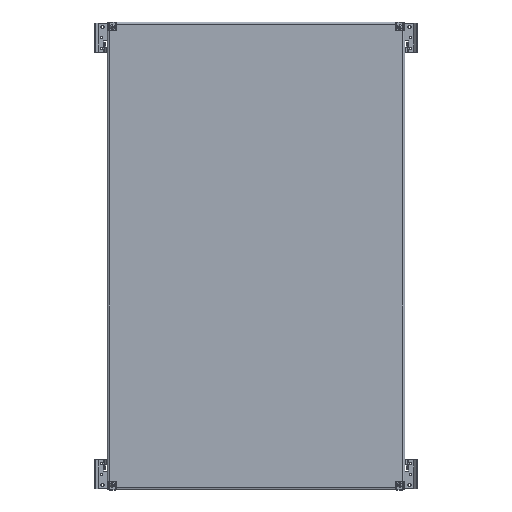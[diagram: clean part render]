
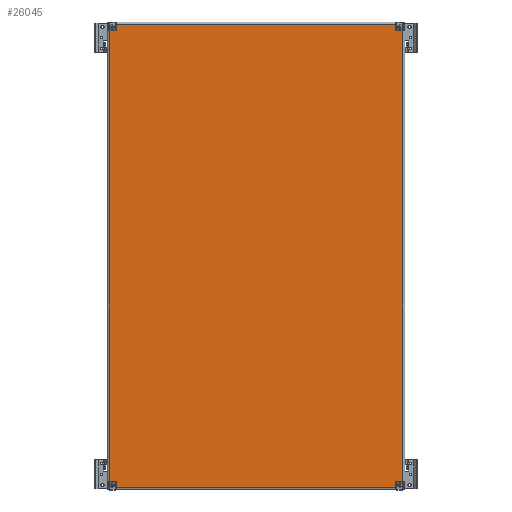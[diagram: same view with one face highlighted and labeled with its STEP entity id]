
A CAD part, top view. The second image highlights one B-rep face of the part: STEP entity #26045.
In plain terms, the highlighted planar face has unit normal (0, 0, 1).
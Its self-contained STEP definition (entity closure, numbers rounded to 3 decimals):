
#873 = DIRECTION ( 'NONE',  ( 0., 1., 0. ) ) ;
#1228 = CARTESIAN_POINT ( 'NONE',  ( 328.5, 529.5, 0. ) ) ;
#1687 = VECTOR ( 'NONE', #28397, 1000. ) ;
#1767 = CARTESIAN_POINT ( 'NONE',  ( 329.5, -529.5, 0. ) ) ;
#2126 = EDGE_CURVE ( 'NONE', #26656, #28399, #14242, .T. ) ;
#2667 = FACE_OUTER_BOUND ( 'NONE', #18106, .T. ) ;
#2887 = VERTEX_POINT ( 'NONE', #34627 ) ;
#3249 = CARTESIAN_POINT ( 'NONE',  ( 344.5, -528.5, 0. ) ) ;
#3289 = ORIENTED_EDGE ( 'NONE', *, *, #14723, .F. ) ;
#3329 = VECTOR ( 'NONE', #20695, 1000. ) ;
#3623 = DIRECTION ( 'NONE',  ( 0., -1., 0. ) ) ;
#3656 = EDGE_CURVE ( 'NONE', #22456, #15865, #10225, .T. ) ;
#3991 = VECTOR ( 'NONE', #29904, 1000. ) ;
#3996 = LINE ( 'NONE', #7101, #35418 ) ;
#4034 = CARTESIAN_POINT ( 'NONE',  ( 328.5, -544.5, 0. ) ) ;
#4204 = VECTOR ( 'NONE', #3623, 1000. ) ;
#4417 = VECTOR ( 'NONE', #17963, 1000. ) ;
#4607 = CARTESIAN_POINT ( 'NONE',  ( -349.5, -528.5, 0. ) ) ;
#4974 = DIRECTION ( 'NONE',  ( -1., 0., 0. ) ) ;
#5222 = VECTOR ( 'NONE', #10550, 1000. ) ;
#5445 = VECTOR ( 'NONE', #18452, 1000. ) ;
#6223 = VERTEX_POINT ( 'NONE', #34834 ) ;
#6852 = CARTESIAN_POINT ( 'NONE',  ( -328.5, 544.5, 0. ) ) ;
#7101 = CARTESIAN_POINT ( 'NONE',  ( -328.5, 549.5, 0. ) ) ;
#7339 = DIRECTION ( 'NONE',  ( 0., 0., 1. ) ) ;
#7634 = DIRECTION ( 'NONE',  ( 0., 0., -1. ) ) ;
#7762 = AXIS2_PLACEMENT_3D ( 'NONE', #19757, #7339, #35046 ) ;
#7945 = ORIENTED_EDGE ( 'NONE', *, *, #25938, .F. ) ;
#8225 = LINE ( 'NONE', #14818, #12094 ) ;
#8340 = CARTESIAN_POINT ( 'NONE',  ( -349.5, 528.5, 0. ) ) ;
#8444 = LINE ( 'NONE', #14837, #3991 ) ;
#9569 = CIRCLE ( 'NONE', #9600, 1. ) ;
#9600 = AXIS2_PLACEMENT_3D ( 'NONE', #1767, #33594, #23876 ) ;
#10225 = LINE ( 'NONE', #3249, #1687 ) ;
#10539 = ORIENTED_EDGE ( 'NONE', *, *, #27429, .F. ) ;
#10550 = DIRECTION ( 'NONE',  ( -1., 0., 0. ) ) ;
#10865 = ORIENTED_EDGE ( 'NONE', *, *, #36867, .F. ) ;
#11157 = LINE ( 'NONE', #4607, #5222 ) ;
#11674 = VECTOR ( 'NONE', #4974, 1000. ) ;
#12094 = VECTOR ( 'NONE', #24753, 1000. ) ;
#12475 = ORIENTED_EDGE ( 'NONE', *, *, #3656, .T. ) ;
#12758 = CARTESIAN_POINT ( 'NONE',  ( 344.5, -528.5, 0. ) ) ;
#13300 = CARTESIAN_POINT ( 'NONE',  ( 328.5, 544.5, 0. ) ) ;
#14061 = CARTESIAN_POINT ( 'NONE',  ( -329.5, -529.5, 0. ) ) ;
#14242 = LINE ( 'NONE', #26825, #23196 ) ;
#14440 = LINE ( 'NONE', #33675, #4417 ) ;
#14723 = EDGE_CURVE ( 'NONE', #26656, #28868, #27248, .T. ) ;
#14818 = CARTESIAN_POINT ( 'NONE',  ( 349.5, 528.5, 0. ) ) ;
#14837 = CARTESIAN_POINT ( 'NONE',  ( -344.5, 528.5, 0. ) ) ;
#14968 = EDGE_CURVE ( 'NONE', #26399, #17802, #8444, .T. ) ;
#15865 = VERTEX_POINT ( 'NONE', #29173 ) ;
#16400 = CARTESIAN_POINT ( 'NONE',  ( -329.5, 528.5, 0. ) ) ;
#16609 = DIRECTION ( 'NONE',  ( -1., 0., 0. ) ) ;
#16618 = CARTESIAN_POINT ( 'NONE',  ( 328.5, 544.5, 0. ) ) ;
#16634 = CARTESIAN_POINT ( 'NONE',  ( -328.5, 529.5, 0. ) ) ;
#16727 = EDGE_CURVE ( 'NONE', #38385, #38629, #22497, .T. ) ;
#16806 = CARTESIAN_POINT ( 'NONE',  ( -328.5, -544.5, 0. ) ) ;
#17370 = AXIS2_PLACEMENT_3D ( 'NONE', #14061, #38841, #29155 ) ;
#17802 = VERTEX_POINT ( 'NONE', #19268 ) ;
#17963 = DIRECTION ( 'NONE',  ( 0., -1., 0. ) ) ;
#18106 = EDGE_LOOP ( 'NONE', ( #3289, #39124, #35439, #21185, #7945, #12475, #10865, #36861, #30970, #38395, #23134, #34205, #25080, #40346, #10539, #25195 ) ) ;
#18452 = DIRECTION ( 'NONE',  ( 1., 0., 0. ) ) ;
#19119 = LINE ( 'NONE', #13300, #25442 ) ;
#19268 = CARTESIAN_POINT ( 'NONE',  ( -344.5, -528.5, 0. ) ) ;
#19437 = DIRECTION ( 'NONE',  ( 1., 0., 0. ) ) ;
#19757 = CARTESIAN_POINT ( 'NONE',  ( 0., 0., 0. ) ) ;
#19839 = CARTESIAN_POINT ( 'NONE',  ( -344.5, 528.5, 0. ) ) ;
#20248 = CARTESIAN_POINT ( 'NONE',  ( 329.5, 529.5, 0. ) ) ;
#20664 = LINE ( 'NONE', #35943, #11674 ) ;
#20695 = DIRECTION ( 'NONE',  ( 0., 1., 0. ) ) ;
#21073 = PLANE ( 'NONE',  #7762 ) ;
#21185 = ORIENTED_EDGE ( 'NONE', *, *, #38400, .T. ) ;
#21991 = EDGE_CURVE ( 'NONE', #33281, #35777, #19119, .T. ) ;
#22298 = EDGE_CURVE ( 'NONE', #33281, #32684, #14440, .T. ) ;
#22456 = VERTEX_POINT ( 'NONE', #12758 ) ;
#22497 = CIRCLE ( 'NONE', #27715, 1. ) ;
#23132 = EDGE_CURVE ( 'NONE', #2887, #28399, #35601, .T. ) ;
#23134 = ORIENTED_EDGE ( 'NONE', *, *, #26274, .F. ) ;
#23144 = DIRECTION ( 'NONE',  ( 1., 0., 0. ) ) ;
#23196 = VECTOR ( 'NONE', #23144, 1000. ) ;
#23555 = CIRCLE ( 'NONE', #25561, 1. ) ;
#23876 = DIRECTION ( 'NONE',  ( 1., 0., 0. ) ) ;
#24455 = LINE ( 'NONE', #8340, #5445 ) ;
#24753 = DIRECTION ( 'NONE',  ( 1., 0., 0. ) ) ;
#25080 = ORIENTED_EDGE ( 'NONE', *, *, #31584, .F. ) ;
#25195 = ORIENTED_EDGE ( 'NONE', *, *, #32339, .T. ) ;
#25442 = VECTOR ( 'NONE', #16609, 1000. ) ;
#25561 = AXIS2_PLACEMENT_3D ( 'NONE', #20248, #7634, #19437 ) ;
#25938 = EDGE_CURVE ( 'NONE', #22456, #6223, #20664, .T. ) ;
#26045 = ADVANCED_FACE ( 'NONE', ( #2667 ), #21073, .T. ) ;
#26274 = EDGE_CURVE ( 'NONE', #38385, #35777, #3996, .T. ) ;
#26399 = VERTEX_POINT ( 'NONE', #19839 ) ;
#26490 = EDGE_CURVE ( 'NONE', #34379, #32684, #23555, .T. ) ;
#26656 = VERTEX_POINT ( 'NONE', #16806 ) ;
#26825 = CARTESIAN_POINT ( 'NONE',  ( -328.5, -544.5, 0. ) ) ;
#27248 = LINE ( 'NONE', #33507, #3329 ) ;
#27429 = EDGE_CURVE ( 'NONE', #31846, #17802, #11157, .T. ) ;
#27715 = AXIS2_PLACEMENT_3D ( 'NONE', #38263, #31884, #32288 ) ;
#28397 = DIRECTION ( 'NONE',  ( 0., 1., 0. ) ) ;
#28399 = VERTEX_POINT ( 'NONE', #4034 ) ;
#28868 = VERTEX_POINT ( 'NONE', #40851 ) ;
#29155 = DIRECTION ( 'NONE',  ( 1., 0., 0. ) ) ;
#29173 = CARTESIAN_POINT ( 'NONE',  ( 344.5, 528.5, 0. ) ) ;
#29904 = DIRECTION ( 'NONE',  ( 0., -1., 0. ) ) ;
#30970 = ORIENTED_EDGE ( 'NONE', *, *, #22298, .F. ) ;
#31584 = EDGE_CURVE ( 'NONE', #26399, #38629, #24455, .T. ) ;
#31846 = VERTEX_POINT ( 'NONE', #35113 ) ;
#31884 = DIRECTION ( 'NONE',  ( 0., 0., -1. ) ) ;
#32288 = DIRECTION ( 'NONE',  ( 1., 0., 0. ) ) ;
#32339 = EDGE_CURVE ( 'NONE', #31846, #28868, #37799, .T. ) ;
#32684 = VERTEX_POINT ( 'NONE', #1228 ) ;
#33281 = VERTEX_POINT ( 'NONE', #16618 ) ;
#33507 = CARTESIAN_POINT ( 'NONE',  ( -328.5, -549.5, 0. ) ) ;
#33594 = DIRECTION ( 'NONE',  ( 0., 0., -1. ) ) ;
#33675 = CARTESIAN_POINT ( 'NONE',  ( 328.5, 549.5, 0. ) ) ;
#34205 = ORIENTED_EDGE ( 'NONE', *, *, #16727, .T. ) ;
#34379 = VERTEX_POINT ( 'NONE', #38441 ) ;
#34627 = CARTESIAN_POINT ( 'NONE',  ( 328.5, -529.5, 0. ) ) ;
#34834 = CARTESIAN_POINT ( 'NONE',  ( 329.5, -528.5, 0. ) ) ;
#35046 = DIRECTION ( 'NONE',  ( 1., 0., 0. ) ) ;
#35113 = CARTESIAN_POINT ( 'NONE',  ( -329.5, -528.5, 0. ) ) ;
#35418 = VECTOR ( 'NONE', #873, 1000. ) ;
#35439 = ORIENTED_EDGE ( 'NONE', *, *, #23132, .F. ) ;
#35601 = LINE ( 'NONE', #35806, #4204 ) ;
#35777 = VERTEX_POINT ( 'NONE', #6852 ) ;
#35806 = CARTESIAN_POINT ( 'NONE',  ( 328.5, -549.5, 0. ) ) ;
#35943 = CARTESIAN_POINT ( 'NONE',  ( 349.5, -528.5, 0. ) ) ;
#36861 = ORIENTED_EDGE ( 'NONE', *, *, #26490, .T. ) ;
#36867 = EDGE_CURVE ( 'NONE', #34379, #15865, #8225, .T. ) ;
#37799 = CIRCLE ( 'NONE', #17370, 1. ) ;
#38263 = CARTESIAN_POINT ( 'NONE',  ( -329.5, 529.5, 0. ) ) ;
#38385 = VERTEX_POINT ( 'NONE', #16634 ) ;
#38395 = ORIENTED_EDGE ( 'NONE', *, *, #21991, .T. ) ;
#38400 = EDGE_CURVE ( 'NONE', #2887, #6223, #9569, .T. ) ;
#38441 = CARTESIAN_POINT ( 'NONE',  ( 329.5, 528.5, 0. ) ) ;
#38629 = VERTEX_POINT ( 'NONE', #16400 ) ;
#38841 = DIRECTION ( 'NONE',  ( 0., 0., -1. ) ) ;
#39124 = ORIENTED_EDGE ( 'NONE', *, *, #2126, .T. ) ;
#40346 = ORIENTED_EDGE ( 'NONE', *, *, #14968, .T. ) ;
#40851 = CARTESIAN_POINT ( 'NONE',  ( -328.5, -529.5, 0. ) ) ;
